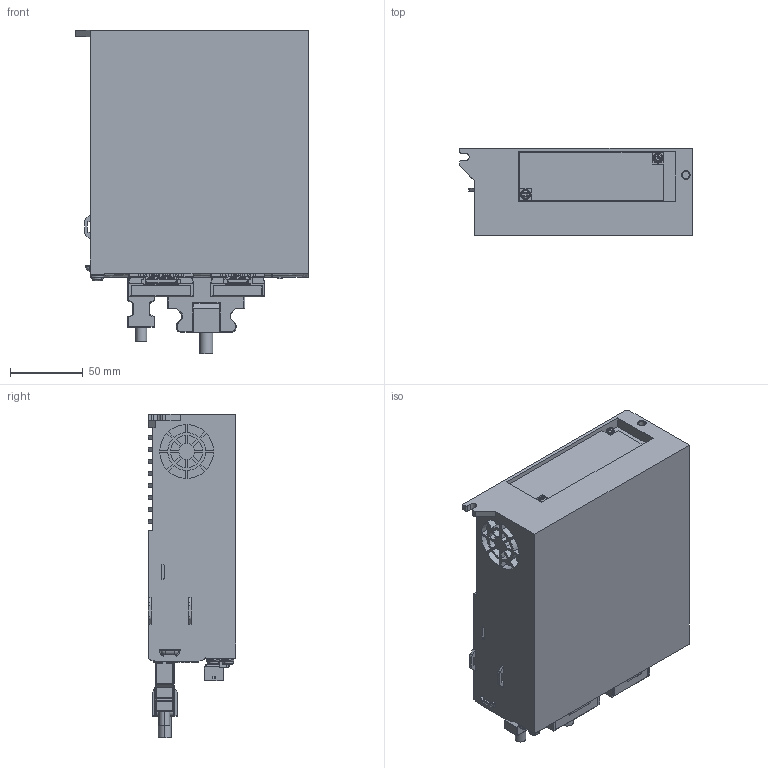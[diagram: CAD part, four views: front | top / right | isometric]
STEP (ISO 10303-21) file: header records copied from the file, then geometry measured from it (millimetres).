
FILE_DESCRIPTION (( 'STEP AP214' ), '1' );
FILE_NAME ('Ω6s-AP-B型-通用&基础-整机外形图.STEP', '2023-04-19T02:06:18', ( '' ), ( '' ), 'SwSTEP 2.0', 'SolidWorks 2014', '' );
FILE_SCHEMA (( 'AUTOMOTIVE_DESIGN' ));
Length unit declared in the file: millimetre
Products named in the file (23): 750WP; M3-H6; 次6s-AP-B倰-籵蚚&價插-淕儂俋倛芞; jack-t3507505; STOM2X04P; jack-t3507506; plug-t3507506; plug-t3507505; 橈勤硉晤鎢ん脣芛; 控制回路端子插座-SCI-SOSCN-君昊; M4-H8
Assembly tree (12 placements, depth 2):
  M3-H6
  次6s-AP-B倰-籵蚚&價插-淕儂俋倛芞
    750WP
    M4-H8  x2
    jack-t3507505
    jack-t3507506
    plug-t3507505
    STOM2X04P
    plug-t3507506
    M3-H6  x2
    橈勤硉晤鎢ん脣芛
    控制回路端子插座-SCI-SOSCN-君昊
  jack-t3507505
  M3-H6
  jack-t3507506
Bounding box: 160 x 60 x 222.6 mm (x, y, z)
Volume: 1391041.7 mm3; surface area: 195424.6 mm2
Topology: 23 solids, 24 shells, 4205 faces, 11586 edges, 7481 vertices
Faces by surface type: plane 3150, cylinder 544, bspline 441, sphere 26, torus 24, cone 20
Entity records: 149735 total; most frequent: CARTESIAN_POINT 47143, ORIENTED_EDGE 22732, DIRECTION 18264, EDGE_CURVE 11366, VECTOR 9170, LINE 9170, VERTEX_POINT 7353, AXIS2_PLACEMENT_3D 4547
